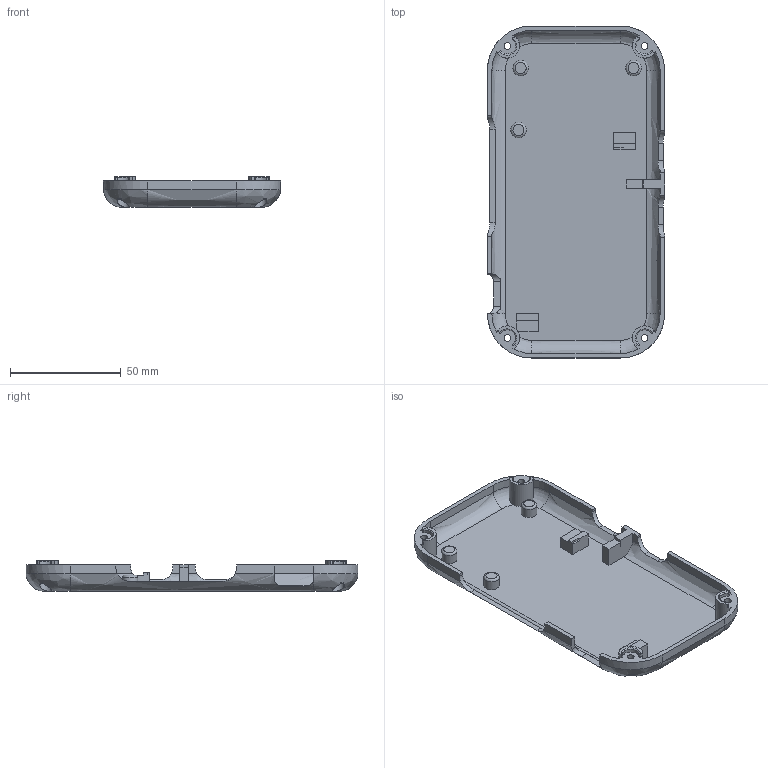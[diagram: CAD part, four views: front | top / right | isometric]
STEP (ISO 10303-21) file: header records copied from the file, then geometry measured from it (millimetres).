
FILE_DESCRIPTION(/* description */ (''),/* implementation_level */ '2;1');
FILE_NAME(/* name */ '07_Rear_Shell.step',/* time_stamp */ '2026-09-19T10:15:31-07:00',/* author */ (''),/* organization */ (''),/* preprocessor_version */ 'ST-DEVELOPER v20.2',/* originating_system */ 'Autodesk Translation Framework v15.15.0.0',/* authorisation */ '');
FILE_SCHEMA (('AUTOMOTIVE_DESIGN { 1 0 10303 214 3 1 1 }'));
Length unit declared in the file: millimetre
Products named in the file (1): 2026-09-19-10-15-31-315
Bounding box: 80 x 150 x 14 mm (x, y, z)
Volume: 31648.3 mm3; surface area: 30447.6 mm2
Topology: 1 solids, 1 shells, 154 faces, 421 edges, 277 vertices
Faces by surface type: plane 77, cylinder 49, bspline 21, torus 7
Full cylindrical faces by diameter (mm): 3 x4, 5.5 x4, 7 x3
Entity records: 6847 total; most frequent: CARTESIAN_POINT 3112, ORIENTED_EDGE 842, DIRECTION 663, EDGE_CURVE 421, VERTEX_POINT 277, AXIS2_PLACEMENT_3D 233, LINE 197, VECTOR 197
